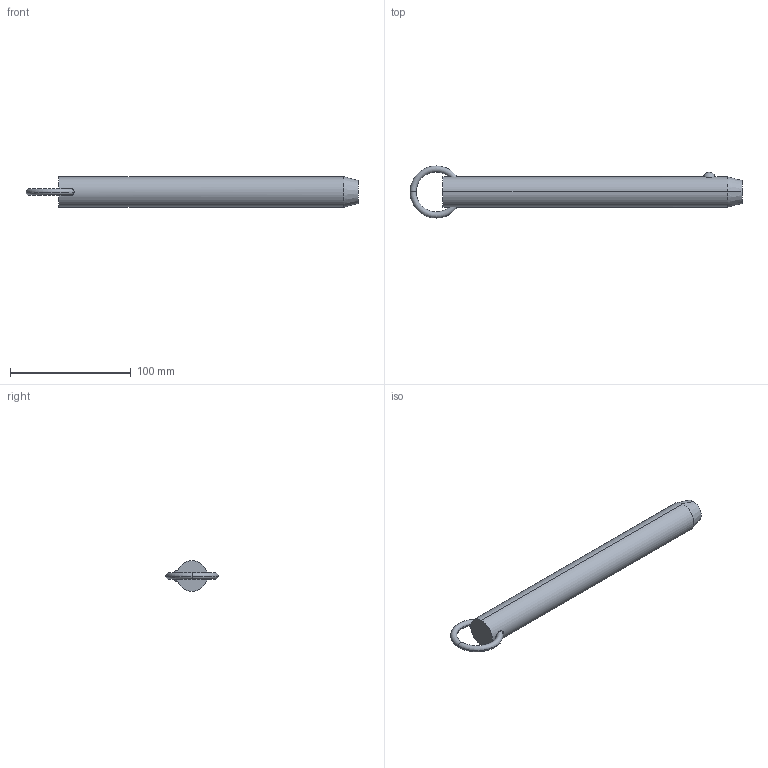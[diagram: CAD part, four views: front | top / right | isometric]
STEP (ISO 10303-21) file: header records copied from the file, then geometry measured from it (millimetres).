
FILE_DESCRIPTION (( 'STEP AP203' ), '1' );
FILE_NAME ('33010.W1080.step', '2024-11-01T10:48:53', ( '' ), ( '' ), 'SwSTEP 2.0', 'SolidWorks 2019', '' );
FILE_SCHEMA (( 'CONFIG_CONTROL_DESIGN' ));
Length unit declared in the file: millimetre
Products named in the file (3): Part1_33010.W1080; Part2_33010.W1080; 33010.W1080
Assembly tree (2 placements, depth 2):
  33010.W1080
    Part1_33010.W1080
    Part2_33010.W1080
Bounding box: 274.78 x 43.18 x 25.4 mm (x, y, z)
Volume: 125821.9 mm3; surface area: 22886.1 mm2
Topology: 2 solids, 2 shells, 18 faces, 37 edges, 22 vertices
Faces by surface type: torus 8, plane 4, sphere 2, cone 2, cylinder 2
Entity records: 975 total; most frequent: CARTESIAN_POINT 280, DIRECTION 100, ORIENTED_EDGE 74, AXIS2_PLACEMENT_3D 48, EDGE_CURVE 37, PERSON_AND_ORGANIZATION 26, CIRCLE 25, VERTEX_POINT 22
